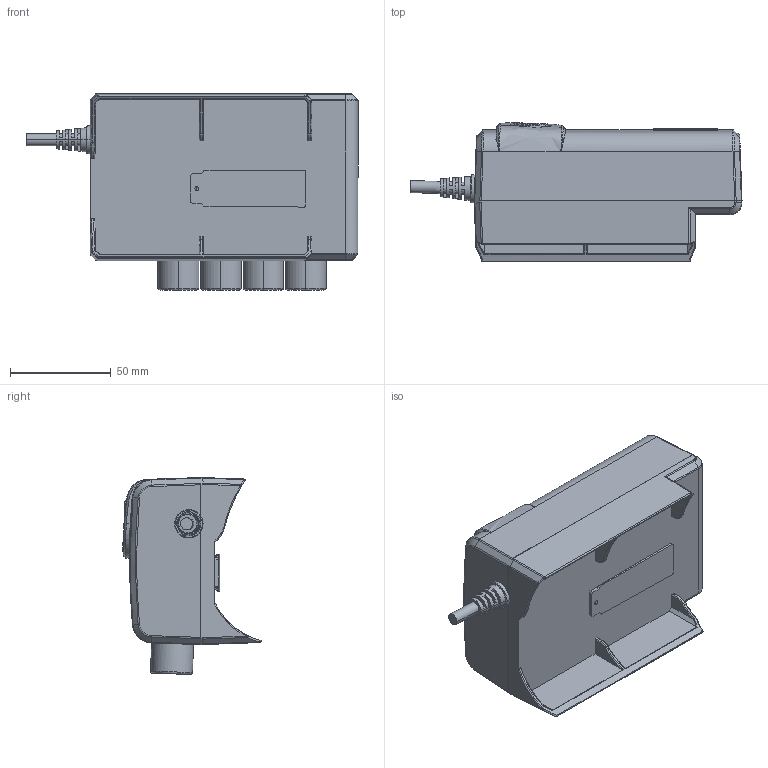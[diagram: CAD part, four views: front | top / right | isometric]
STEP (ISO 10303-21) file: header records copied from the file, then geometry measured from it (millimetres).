
FILE_DESCRIPTION (( 'STEP AP203' ), '1' );
FILE_NAME ('3D_TC3-A.STEP', '2017-07-11T02:50:09', ( '' ), ( '' ), 'SwSTEP 2.0', 'SolidWorks 2015', '' );
FILE_SCHEMA (( 'CONFIG_CONTROL_DESIGN' ));
Products named in the file (1): 3D_TC3-A
Bounding box: 164.88 x 68.62 x 97.83 mm (x, y, z)
Volume: 479545.4 mm3; surface area: 53021.5 mm2
Topology: 1 solids, 1 shells, 1564 faces, 4472 edges, 2933 vertices
Faces by surface type: plane 1301, cylinder 130, bspline 80, torus 31, sphere 16, cone 6
Entity records: 55547 total; most frequent: CARTESIAN_POINT 21530, ORIENTED_EDGE 8944, DIRECTION 5122, EDGE_CURVE 4472, VERTEX_POINT 2933, AXIS2_PLACEMENT_3D 1768, EDGE_LOOP 1589, VECTOR 1586
